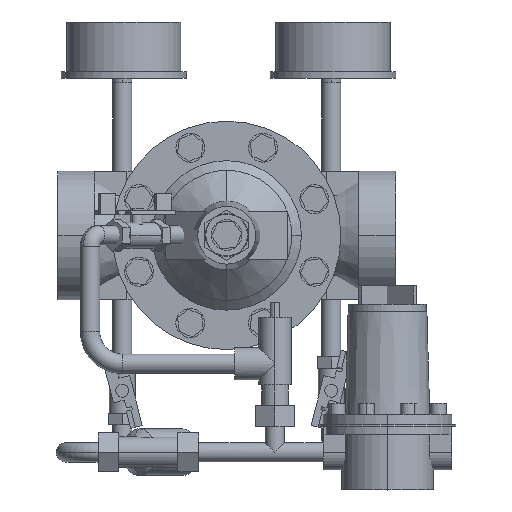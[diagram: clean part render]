
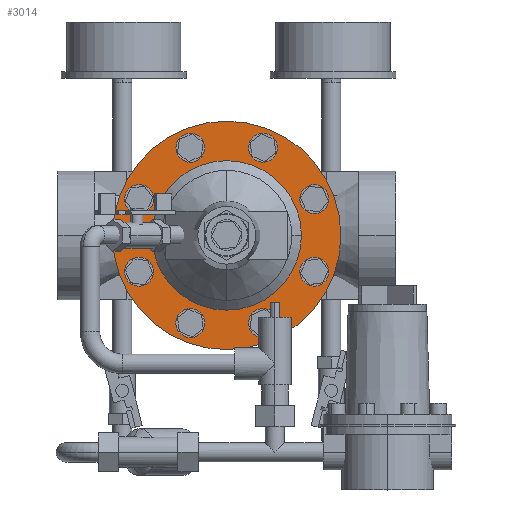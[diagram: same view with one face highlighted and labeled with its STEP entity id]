
A CAD part, top view. The second image highlights one B-rep face of the part: STEP entity #3014.
In plain terms, the highlighted planar face has unit normal (0, 0, 1).
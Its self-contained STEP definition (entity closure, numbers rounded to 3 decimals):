
#3014=ADVANCED_FACE('',(#6305),#6306,.T.);
#6305=FACE_OUTER_BOUND('',#11097,.T.);
#6306=PLANE('',#11098);
#11097=EDGE_LOOP('',(#15037,#15038));
#11098=AXIS2_PLACEMENT_3D('',#15039,#15040,#15041);
#15037=ORIENTED_EDGE('',*,*,#24933,.F.);
#15038=ORIENTED_EDGE('',*,*,#24934,.F.);
#15039=CARTESIAN_POINT('',(105.0,0.0,60.0));
#15040=DIRECTION('',(0.,0.0,1.0));
#15041=DIRECTION('',(-1.0,0.0,0.));
#24933=EDGE_CURVE('',#28974,#28975,#28976,.T.);
#24934=EDGE_CURVE('',#28975,#28974,#28977,.T.);
#28974=VERTEX_POINT('',#34740);
#28975=VERTEX_POINT('',#34741);
#28976=CIRCLE('',#34742,71.0);
#28977=CIRCLE('',#34743,71.0);
#34740=CARTESIAN_POINT('',(34.0,0.0,60.0));
#34741=CARTESIAN_POINT('',(176.0,0.,60.0));
#34742=AXIS2_PLACEMENT_3D('',#53613,#53614,#53615);
#34743=AXIS2_PLACEMENT_3D('',#53616,#53617,#53618);
#53613=CARTESIAN_POINT('',(105.0,0.0,60.0));
#53614=DIRECTION('',(0.,0.0,-1.0));
#53615=DIRECTION('',(-1.0,0.0,0.));
#53616=CARTESIAN_POINT('',(105.0,0.0,60.0));
#53617=DIRECTION('',(0.,0.0,-1.0));
#53618=DIRECTION('',(-1.0,0.0,0.));
